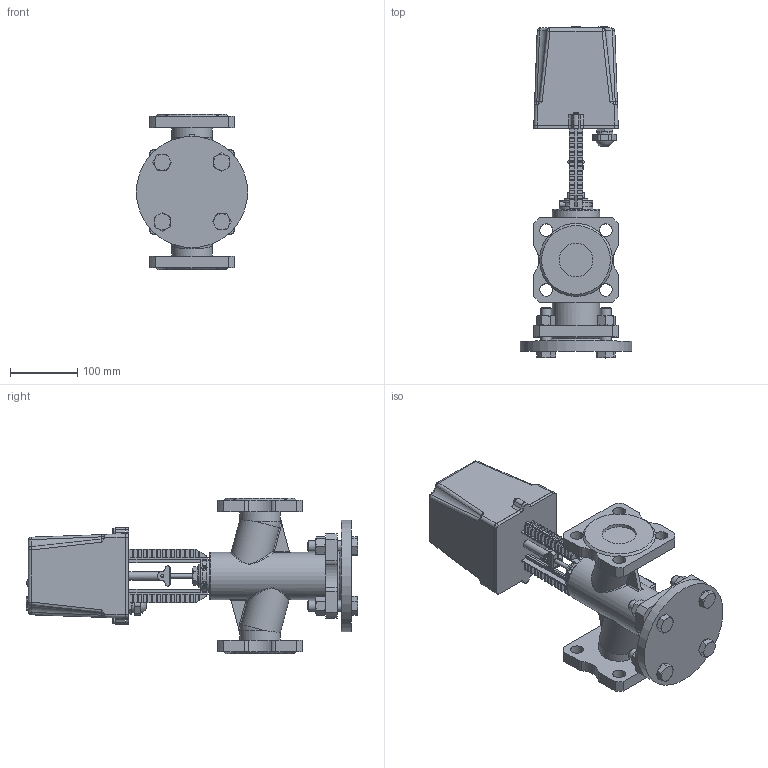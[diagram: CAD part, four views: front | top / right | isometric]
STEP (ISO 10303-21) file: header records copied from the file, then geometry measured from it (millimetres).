
FILE_DESCRIPTION(('STEP AP242'), '1');
FILE_NAME('VSR1-13V-PED-F Êëàïàí çàïîðíî-ðåãóëèðóþùèé DN.ru Äó50 Ðó16', '', ('UNSPECIFIED'), ('UNSPECIFIED'), 'C3D Converter', 'C3D Toolkit', '');
FILE_SCHEMA(('AP242_MANAGED_MODEL_BASED_3D_ENGINEERING_MIM_LF { 1 0 10303 442 1 1 4 }'));
Length unit declared in the file: millimetre
Products named in the file (1): VSR1-13V-PED-F
Bounding box: 165 x 492 x 230 mm (x, y, z)
Volume: 4445134.7 mm3; surface area: 397906.4 mm2
Topology: 1 solids, 1 shells, 1396 faces, 3765 edges, 2381 vertices
Faces by surface type: plane 751, cylinder 282, extrusion 145, bspline 82, cone 62, torus 44, sphere 30
Full cylindrical faces by diameter (mm): 4 x5, 6 x1, 7 x2, 7.5 x3, 12 x2, 13.835 x4, 16 x4, 18 x4, 19 x12, 24 x4, 25 x1, 35 x1, 50 x3, 60 x2, 70 x1, 165 x1
Entity records: 63088 total; most frequent: CARTESIAN_POINT 22340, ORIENTED_EDGE 7232, DIRECTION 6212, EDGE_CURVE 3616, VERTEX_POINT 2373, VECTOR 2354, LINE 2209, AXIS2_PLACEMENT_3D 1929
